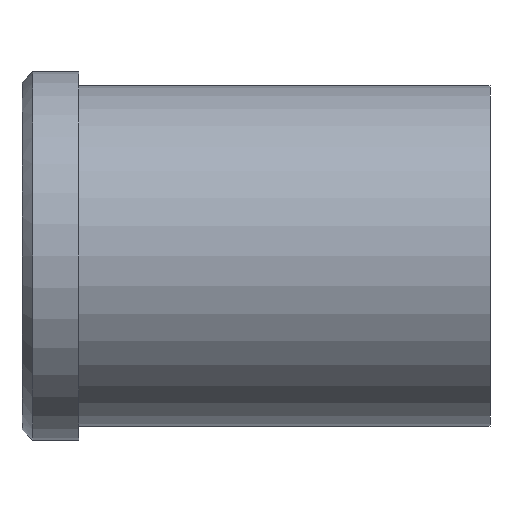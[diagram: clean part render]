
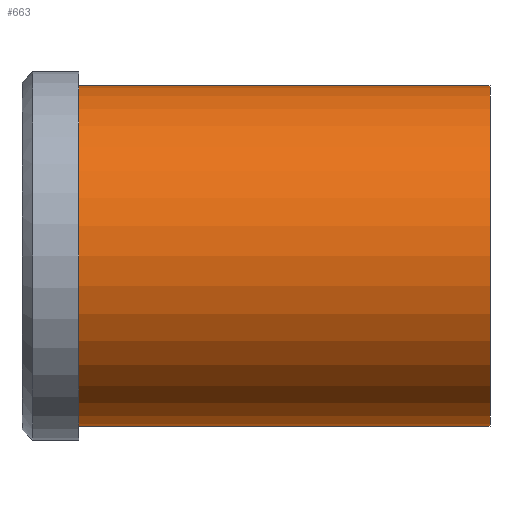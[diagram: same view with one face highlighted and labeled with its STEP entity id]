
A CAD part, front view. The second image highlights one B-rep face of the part: STEP entity #663.
In plain terms, the highlighted cylindrical face has radius 24 mm (diameter 48 mm), a partial arc.
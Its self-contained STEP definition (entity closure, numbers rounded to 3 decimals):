
#501=CARTESIAN_POINT('Vertex',(0.,0.,-24.)) ;
#506=CARTESIAN_POINT('Axis2P3D Location',(0.,0.,0.)) ;
#510=CARTESIAN_POINT('Vertex',(0.,-24.,0.)) ;
#513=CARTESIAN_POINT('Axis2P3D Location',(0.,0.,0.)) ;
#517=CARTESIAN_POINT('Vertex',(0.,0.,24.)) ;
#603=CARTESIAN_POINT('Line Origine',(58.,0.,24.)) ;
#607=CARTESIAN_POINT('Vertex',(58.,0.,24.)) ;
#621=CARTESIAN_POINT('Vertex',(58.,0.,-24.)) ;
#624=CARTESIAN_POINT('Line Origine',(58.,0.,-24.)) ;
#638=CARTESIAN_POINT('Axis2P3D Location',(58.,0.,0.)) ;
#643=CARTESIAN_POINT('Axis2P3D Location',(58.,0.,0.)) ;
#647=CARTESIAN_POINT('Vertex',(58.,-24.,0.)) ;
#650=CARTESIAN_POINT('Axis2P3D Location',(58.,0.,0.)) ;
#507=DIRECTION('Axis2P3D Direction',(1.,0.,-0.)) ;
#514=DIRECTION('Axis2P3D Direction',(1.,0.,-0.)) ;
#604=DIRECTION('Vector Direction',(-1.,0.,0.)) ;
#625=DIRECTION('Vector Direction',(-1.,0.,0.)) ;
#639=DIRECTION('Axis2P3D Direction',(-1.,-0.,-0.)) ;
#640=DIRECTION('Axis2P3D XDirection',(0.,0.,-1.)) ;
#644=DIRECTION('Axis2P3D Direction',(-1.,-0.,-0.)) ;
#651=DIRECTION('Axis2P3D Direction',(-1.,-0.,-0.)) ;
#508=AXIS2_PLACEMENT_3D('Circle Axis2P3D',#506,#507,$) ;
#515=AXIS2_PLACEMENT_3D('Circle Axis2P3D',#513,#514,$) ;
#641=AXIS2_PLACEMENT_3D('Cylinder Axis2P3D',#638,#639,#640) ;
#645=AXIS2_PLACEMENT_3D('Circle Axis2P3D',#643,#644,$) ;
#652=AXIS2_PLACEMENT_3D('Circle Axis2P3D',#650,#651,$) ;
#656=ORIENTED_EDGE('',*,*,#628,.T.) ;
#657=ORIENTED_EDGE('',*,*,#649,.F.) ;
#658=ORIENTED_EDGE('',*,*,#654,.F.) ;
#659=ORIENTED_EDGE('',*,*,#609,.T.) ;
#660=ORIENTED_EDGE('',*,*,#519,.T.) ;
#661=ORIENTED_EDGE('',*,*,#512,.T.) ;
#605=VECTOR('Line Direction',#604,1.) ;
#626=VECTOR('Line Direction',#625,1.) ;
#663=ADVANCED_FACE('353-40X66',(#662),#642,.T.) ;
#509=CIRCLE('generated circle',#508,24.) ;
#516=CIRCLE('generated circle',#515,24.) ;
#646=CIRCLE('generated circle',#645,24.) ;
#653=CIRCLE('generated circle',#652,24.) ;
#642=CYLINDRICAL_SURFACE('generated cylinder',#641,24.) ;
#512=EDGE_CURVE('',#511,#502,#509,.T.) ;
#519=EDGE_CURVE('',#518,#511,#516,.T.) ;
#609=EDGE_CURVE('',#608,#518,#606,.T.) ;
#628=EDGE_CURVE('',#502,#622,#627,.F.) ;
#649=EDGE_CURVE('',#648,#622,#646,.F.) ;
#654=EDGE_CURVE('',#608,#648,#653,.F.) ;
#655=EDGE_LOOP('',(#656,#657,#658,#659,#660,#661)) ;
#662=FACE_OUTER_BOUND('',#655,.T.) ;
#606=LINE('Line',#603,#605) ;
#627=LINE('Line',#624,#626) ;
#502=VERTEX_POINT('',#501) ;
#511=VERTEX_POINT('',#510) ;
#518=VERTEX_POINT('',#517) ;
#608=VERTEX_POINT('',#607) ;
#622=VERTEX_POINT('',#621) ;
#648=VERTEX_POINT('',#647) ;
